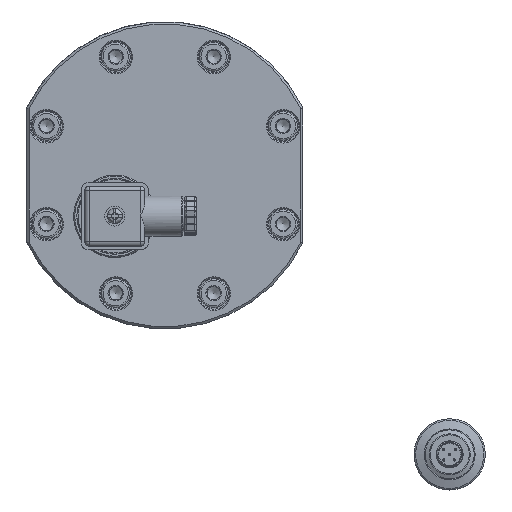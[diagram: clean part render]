
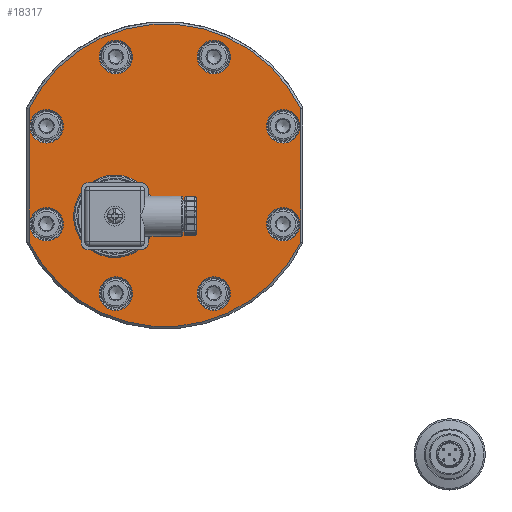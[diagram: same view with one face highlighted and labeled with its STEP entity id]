
A CAD part, top view. The second image highlights one B-rep face of the part: STEP entity #18317.
In plain terms, the highlighted planar face has unit normal (0, 0, 1).
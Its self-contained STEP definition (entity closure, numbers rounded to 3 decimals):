
#2043=LINE('',#90057,#8683);
#2044=LINE('',#90062,#8684);
#8683=VECTOR('',#66147,1.);
#8684=VECTOR('',#66150,1.);
#18317=ADVANCED_FACE('',(#22814,#22815,#22816,#22817,#22818,#22819,#22820,
#22821,#22822,#22823),#20688,.F.);
#20688=PLANE('',#58380);
#22814=FACE_BOUND('',#24348,.T.);
#22815=FACE_BOUND('',#24349,.T.);
#22816=FACE_BOUND('',#24350,.T.);
#22817=FACE_BOUND('',#24351,.T.);
#22818=FACE_BOUND('',#24352,.T.);
#22819=FACE_BOUND('',#24353,.T.);
#22820=FACE_BOUND('',#24354,.T.);
#22821=FACE_BOUND('',#24355,.T.);
#22822=FACE_BOUND('',#24356,.T.);
#22823=FACE_BOUND('',#24357,.T.);
#24348=EDGE_LOOP('',(#31692,#31693,#31694,#31695));
#24349=EDGE_LOOP('',(#31696));
#24350=EDGE_LOOP('',(#31697));
#24351=EDGE_LOOP('',(#31698));
#24352=EDGE_LOOP('',(#31699));
#24353=EDGE_LOOP('',(#31700));
#24354=EDGE_LOOP('',(#31701));
#24355=EDGE_LOOP('',(#31702));
#24356=EDGE_LOOP('',(#31703));
#24357=EDGE_LOOP('',(#31704));
#31692=ORIENTED_EDGE('',*,*,#50083,.T.);
#31693=ORIENTED_EDGE('',*,*,#50084,.T.);
#31694=ORIENTED_EDGE('',*,*,#50085,.T.);
#31695=ORIENTED_EDGE('',*,*,#50086,.T.);
#31696=ORIENTED_EDGE('',*,*,#50087,.T.);
#31697=ORIENTED_EDGE('',*,*,#50088,.T.);
#31698=ORIENTED_EDGE('',*,*,#50089,.T.);
#31699=ORIENTED_EDGE('',*,*,#50090,.T.);
#31700=ORIENTED_EDGE('',*,*,#50091,.T.);
#31701=ORIENTED_EDGE('',*,*,#50092,.T.);
#31702=ORIENTED_EDGE('',*,*,#50093,.T.);
#31703=ORIENTED_EDGE('',*,*,#50094,.T.);
#31704=ORIENTED_EDGE('',*,*,#50095,.T.);
#43858=VERTEX_POINT('',#90058);
#43859=VERTEX_POINT('',#90059);
#43860=VERTEX_POINT('',#90061);
#43861=VERTEX_POINT('',#90063);
#43862=VERTEX_POINT('',#90066);
#43863=VERTEX_POINT('',#90068);
#43864=VERTEX_POINT('',#90070);
#43865=VERTEX_POINT('',#90072);
#43866=VERTEX_POINT('',#90074);
#43867=VERTEX_POINT('',#90076);
#43868=VERTEX_POINT('',#90078);
#43869=VERTEX_POINT('',#90080);
#43870=VERTEX_POINT('',#90082);
#50083=EDGE_CURVE('',#43858,#43859,#2043,.T.);
#50084=EDGE_CURVE('',#43859,#43860,#56098,.T.);
#50085=EDGE_CURVE('',#43860,#43861,#2044,.T.);
#50086=EDGE_CURVE('',#43861,#43858,#56099,.T.);
#50087=EDGE_CURVE('',#43862,#43862,#56100,.T.);
#50088=EDGE_CURVE('',#43863,#43863,#56101,.T.);
#50089=EDGE_CURVE('',#43864,#43864,#56102,.T.);
#50090=EDGE_CURVE('',#43865,#43865,#56103,.T.);
#50091=EDGE_CURVE('',#43866,#43866,#56104,.T.);
#50092=EDGE_CURVE('',#43867,#43867,#56105,.T.);
#50093=EDGE_CURVE('',#43868,#43868,#56106,.T.);
#50094=EDGE_CURVE('',#43869,#43869,#56107,.T.);
#50095=EDGE_CURVE('',#43870,#43870,#56108,.T.);
#56098=CIRCLE('',#58369,68.);
#56099=CIRCLE('',#58370,68.);
#56100=CIRCLE('',#58371,7.5);
#56101=CIRCLE('',#58372,7.5);
#56102=CIRCLE('',#58373,7.5);
#56103=CIRCLE('',#58374,7.5);
#56104=CIRCLE('',#58375,7.5);
#56105=CIRCLE('',#58376,7.5);
#56106=CIRCLE('',#58377,7.5);
#56107=CIRCLE('',#58378,7.5);
#56108=CIRCLE('',#58379,5.);
#58369=AXIS2_PLACEMENT_3D('',#90060,#66148,#66149);
#58370=AXIS2_PLACEMENT_3D('',#90064,#66151,#66152);
#58371=AXIS2_PLACEMENT_3D('',#90065,#66153,#66154);
#58372=AXIS2_PLACEMENT_3D('',#90067,#66155,#66156);
#58373=AXIS2_PLACEMENT_3D('',#90069,#66157,#66158);
#58374=AXIS2_PLACEMENT_3D('',#90071,#66159,#66160);
#58375=AXIS2_PLACEMENT_3D('',#90073,#66161,#66162);
#58376=AXIS2_PLACEMENT_3D('',#90075,#66163,#66164);
#58377=AXIS2_PLACEMENT_3D('',#90077,#66165,#66166);
#58378=AXIS2_PLACEMENT_3D('',#90079,#66167,#66168);
#58379=AXIS2_PLACEMENT_3D('',#90081,#66169,#66170);
#58380=AXIS2_PLACEMENT_3D('',#90083,#66171,#66172);
#66147=DIRECTION('',(0.,1.,0.));
#66148=DIRECTION('',(0.,0.,1.));
#66149=DIRECTION('',(0.,1.,0.));
#66150=DIRECTION('',(0.,-1.,0.));
#66151=DIRECTION('',(0.,0.,1.));
#66152=DIRECTION('',(0.,1.,0.));
#66153=DIRECTION('',(0.,0.,-1.));
#66154=DIRECTION('',(0.,1.,0.));
#66155=DIRECTION('',(0.,0.,-1.));
#66156=DIRECTION('',(0.,1.,0.));
#66157=DIRECTION('',(0.,0.,-1.));
#66158=DIRECTION('',(0.,1.,0.));
#66159=DIRECTION('',(0.,0.,-1.));
#66160=DIRECTION('',(0.,1.,0.));
#66161=DIRECTION('',(0.,0.,-1.));
#66162=DIRECTION('',(0.,1.,0.));
#66163=DIRECTION('',(0.,0.,-1.));
#66164=DIRECTION('',(0.,1.,0.));
#66165=DIRECTION('',(0.,0.,-1.));
#66166=DIRECTION('',(0.,1.,0.));
#66167=DIRECTION('',(0.,0.,-1.));
#66168=DIRECTION('',(0.,1.,0.));
#66169=DIRECTION('',(0.,0.,-1.));
#66170=DIRECTION('',(0.,1.,0.));
#66171=DIRECTION('',(0.,0.,-1.));
#66172=DIRECTION('',(0.,-1.,0.));
#90057=CARTESIAN_POINT('',(-55.691,168.86,-17.65));
#90058=CARTESIAN_POINT('',(-55.691,83.31,-17.65));
#90059=CARTESIAN_POINT('',(-55.691,143.41,-17.65));
#90060=CARTESIAN_POINT('',(-116.691,113.36,-17.65));
#90061=CARTESIAN_POINT('',(-177.691,143.41,-17.65));
#90062=CARTESIAN_POINT('',(-177.691,168.86,-17.65));
#90063=CARTESIAN_POINT('',(-177.691,83.31,-17.65));
#90064=CARTESIAN_POINT('',(-116.691,113.36,-17.65));
#90065=CARTESIAN_POINT('',(-138.695,60.237,-17.65));
#90066=CARTESIAN_POINT('',(-138.695,67.737,-17.65));
#90067=CARTESIAN_POINT('',(-169.814,91.356,-17.65));
#90068=CARTESIAN_POINT('',(-169.814,98.856,-17.65));
#90069=CARTESIAN_POINT('',(-169.814,135.364,-17.65));
#90070=CARTESIAN_POINT('',(-169.814,142.864,-17.65));
#90071=CARTESIAN_POINT('',(-138.695,166.483,-17.65));
#90072=CARTESIAN_POINT('',(-138.695,173.983,-17.65));
#90073=CARTESIAN_POINT('',(-94.686,166.483,-17.65));
#90074=CARTESIAN_POINT('',(-94.686,173.983,-17.65));
#90075=CARTESIAN_POINT('',(-63.567,135.364,-17.65));
#90076=CARTESIAN_POINT('',(-63.567,142.864,-17.65));
#90077=CARTESIAN_POINT('',(-63.567,91.356,-17.65));
#90078=CARTESIAN_POINT('',(-63.567,98.856,-17.65));
#90079=CARTESIAN_POINT('',(-94.686,60.237,-17.65));
#90080=CARTESIAN_POINT('',(-94.686,67.737,-17.65));
#90081=CARTESIAN_POINT('',(-139.191,94.86,-17.65));
#90082=CARTESIAN_POINT('',(-139.191,99.86,-17.65));
#90083=CARTESIAN_POINT('',(-64.691,168.86,-17.65));
